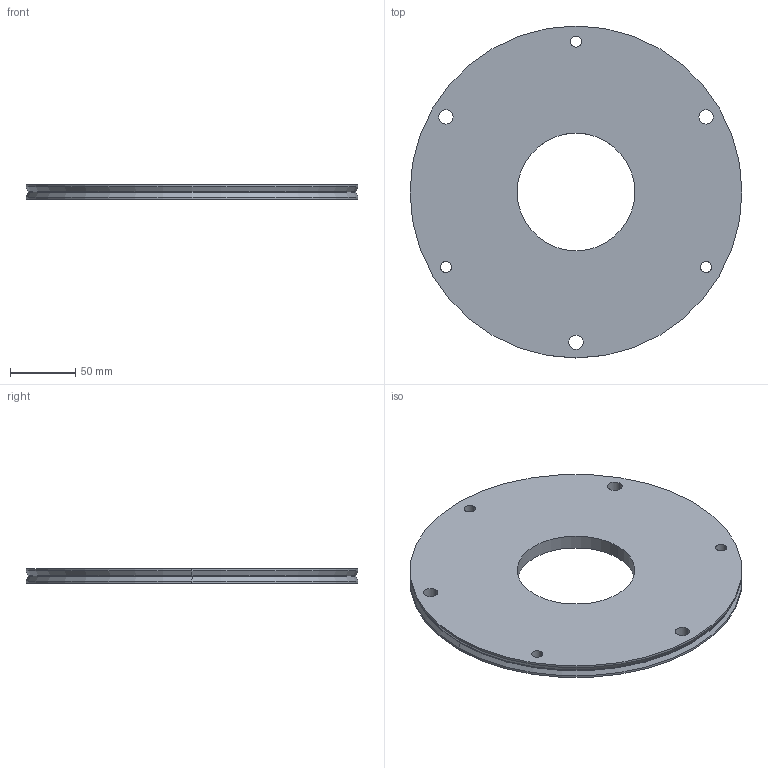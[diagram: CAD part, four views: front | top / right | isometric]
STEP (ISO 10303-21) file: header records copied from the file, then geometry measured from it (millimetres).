
FILE_DESCRIPTION (( 'STEP AP214' ), '1' );
FILE_NAME ('0938 Flansch.STEP', '2025-03-26T13:32:58', ( '' ), ( '' ), 'SwSTEP 2.0', 'SolidWorks 2022', '' );
FILE_SCHEMA (( 'AUTOMOTIVE_DESIGN' ));
Length unit declared in the file: millimetre
Products named in the file (1): 0938 Flansch
Bounding box: 254 x 254 x 11 mm (x, y, z)
Volume: 476311.7 mm3; surface area: 102292.5 mm2
Topology: 1 solids, 1 shells, 28 faces, 68 edges, 42 vertices
Faces by surface type: cylinder 18, torus 4, cone 4, plane 2
Entity records: 966 total; most frequent: DIRECTION 172, CARTESIAN_POINT 139, ORIENTED_EDGE 136, AXIS2_PLACEMENT_3D 75, EDGE_CURVE 68, CIRCLE 46, VERTEX_POINT 42, EDGE_LOOP 42
